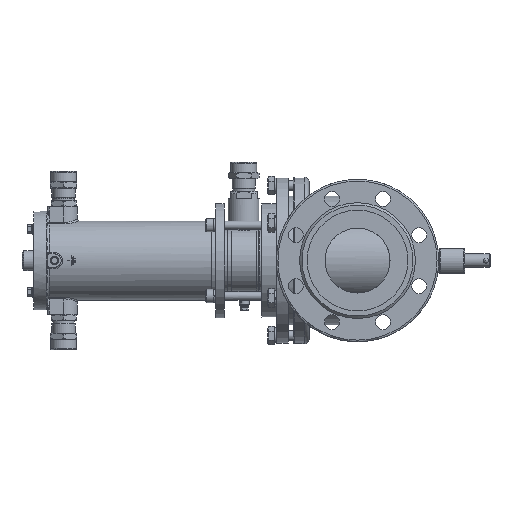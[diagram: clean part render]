
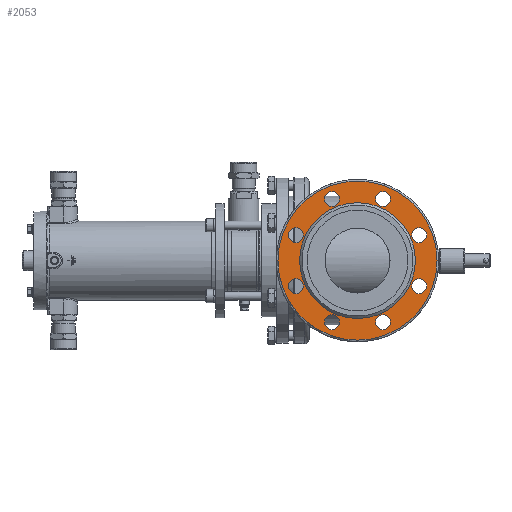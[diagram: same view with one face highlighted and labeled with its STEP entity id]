
A CAD part, left-side view. The second image highlights one B-rep face of the part: STEP entity #2053.
In plain terms, the highlighted planar face has unit normal (-1, 0, 0).
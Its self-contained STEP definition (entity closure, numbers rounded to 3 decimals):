
#2053=ADVANCED_FACE('',(#23290,#23292,#23294,#23296,#23298,#23300,#23302,#23304,
#23306,#23308),#23310,.T.);
#23290=FACE_BOUND('',#23291,.T.);
#23291=EDGE_LOOP('',(#35790));
#23292=FACE_BOUND('',#23293,.T.);
#23293=EDGE_LOOP('',(#35791));
#23294=FACE_BOUND('',#23295,.T.);
#23295=EDGE_LOOP('',(#35792));
#23296=FACE_BOUND('',#23297,.T.);
#23297=EDGE_LOOP('',(#35793));
#23298=FACE_BOUND('',#23299,.T.);
#23299=EDGE_LOOP('',(#35794));
#23300=FACE_BOUND('',#23301,.T.);
#23301=EDGE_LOOP('',(#35795));
#23302=FACE_BOUND('',#23303,.T.);
#23303=EDGE_LOOP('',(#35796));
#23304=FACE_BOUND('',#23305,.T.);
#23305=EDGE_LOOP('',(#35797));
#23306=FACE_BOUND('',#23307,.T.);
#23307=EDGE_LOOP('',(#35798));
#23308=FACE_OUTER_BOUND('',#23309,.T.);
#23309=EDGE_LOOP('',(#35799));
#23310=PLANE('',#23311);
#23311=AXIS2_PLACEMENT_3D('',#23312,#23313,#23314);
#23312=CARTESIAN_POINT('',(-151.,0.,0.));
#23313=DIRECTION('',(-1.,0.,0.));
#23314=DIRECTION('',(0.,1.,0.));
#35790=ORIENTED_EDGE('',*,*,#44468,.T.);
#35791=ORIENTED_EDGE('',*,*,#44466,.T.);
#35792=ORIENTED_EDGE('',*,*,#44464,.T.);
#35793=ORIENTED_EDGE('',*,*,#44462,.T.);
#35794=ORIENTED_EDGE('',*,*,#44460,.T.);
#35795=ORIENTED_EDGE('',*,*,#44458,.T.);
#35796=ORIENTED_EDGE('',*,*,#44456,.T.);
#35797=ORIENTED_EDGE('',*,*,#44454,.T.);
#35798=ORIENTED_EDGE('',*,*,#44495,.F.);
#35799=ORIENTED_EDGE('',*,*,#44496,.T.);
#44454=EDGE_CURVE('',#53426,#53426,#53428,.T.);
#44456=EDGE_CURVE('',#53429,#53429,#53431,.T.);
#44458=EDGE_CURVE('',#53432,#53432,#53434,.T.);
#44460=EDGE_CURVE('',#53435,#53435,#53437,.T.);
#44462=EDGE_CURVE('',#53438,#53438,#53440,.T.);
#44464=EDGE_CURVE('',#53441,#53441,#53443,.T.);
#44466=EDGE_CURVE('',#53444,#53444,#53446,.T.);
#44468=EDGE_CURVE('',#53447,#53447,#53449,.T.);
#44495=EDGE_CURVE('',#53491,#53491,#53492,.T.);
#44496=EDGE_CURVE('',#53493,#53493,#53494,.T.);
#53426=VERTEX_POINT('',#87039);
#53428=CIRCLE('',#87043,9.);
#53429=VERTEX_POINT('',#87047);
#53431=CIRCLE('',#87051,9.);
#53432=VERTEX_POINT('',#87055);
#53434=CIRCLE('',#87059,9.);
#53435=VERTEX_POINT('',#87063);
#53437=CIRCLE('',#87067,9.);
#53438=VERTEX_POINT('',#87071);
#53440=CIRCLE('',#87075,9.);
#53441=VERTEX_POINT('',#87079);
#53443=CIRCLE('',#87083,9.);
#53444=VERTEX_POINT('',#87087);
#53446=CIRCLE('',#87091,9.);
#53447=VERTEX_POINT('',#87095);
#53449=CIRCLE('',#87099,9.);
#53491=VERTEX_POINT('',#87412);
#53492=CIRCLE('',#87413,69.5);
#53493=VERTEX_POINT('',#87417);
#53494=CIRCLE('',#87418,95.5);
#87039=CARTESIAN_POINT('',(-151.,30.615,64.91));
#87043=AXIS2_PLACEMENT_3D('',#87044,#87045,#87046);
#87044=CARTESIAN_POINT('',(-151.,30.615,73.91));
#87045=DIRECTION('',(1.,0.,0.));
#87046=DIRECTION('',(0.,-1.,0.));
#87047=CARTESIAN_POINT('',(-151.,30.615,-82.91));
#87051=AXIS2_PLACEMENT_3D('',#87052,#87053,#87054);
#87052=CARTESIAN_POINT('',(-151.,30.615,-73.91));
#87053=DIRECTION('',(1.,0.,0.));
#87054=DIRECTION('',(0.,-1.,0.));
#87055=CARTESIAN_POINT('',(-151.,73.91,21.615));
#87059=AXIS2_PLACEMENT_3D('',#87060,#87061,#87062);
#87060=CARTESIAN_POINT('',(-151.,73.91,30.615));
#87061=DIRECTION('',(1.,0.,0.));
#87062=DIRECTION('',(0.,-1.,0.));
#87063=CARTESIAN_POINT('',(-151.,-30.615,-82.91));
#87067=AXIS2_PLACEMENT_3D('',#87068,#87069,#87070);
#87068=CARTESIAN_POINT('',(-151.,-30.615,-73.91));
#87069=DIRECTION('',(1.,0.,0.));
#87070=DIRECTION('',(0.,-1.,0.));
#87071=CARTESIAN_POINT('',(-151.,-73.91,21.615));
#87075=AXIS2_PLACEMENT_3D('',#87076,#87077,#87078);
#87076=CARTESIAN_POINT('',(-151.,-73.91,30.615));
#87077=DIRECTION('',(1.,0.,0.));
#87078=DIRECTION('',(0.,-1.,0.));
#87079=CARTESIAN_POINT('',(-151.,-30.615,64.91));
#87083=AXIS2_PLACEMENT_3D('',#87084,#87085,#87086);
#87084=CARTESIAN_POINT('',(-151.,-30.615,73.91));
#87085=DIRECTION('',(1.,0.,0.));
#87086=DIRECTION('',(0.,-1.,0.));
#87087=CARTESIAN_POINT('',(-151.,73.91,-39.615));
#87091=AXIS2_PLACEMENT_3D('',#87092,#87093,#87094);
#87092=CARTESIAN_POINT('',(-151.,73.91,-30.615));
#87093=DIRECTION('',(1.,0.,0.));
#87094=DIRECTION('',(0.,-1.,0.));
#87095=CARTESIAN_POINT('',(-151.,-73.91,-39.615));
#87099=AXIS2_PLACEMENT_3D('',#87100,#87101,#87102);
#87100=CARTESIAN_POINT('',(-151.,-73.91,-30.615));
#87101=DIRECTION('',(1.,0.,0.));
#87102=DIRECTION('',(0.,-1.,0.));
#87412=CARTESIAN_POINT('',(-151.,-69.5,0.));
#87413=AXIS2_PLACEMENT_3D('',#87414,#87415,#87416);
#87414=CARTESIAN_POINT('',(-151.,0.,0.));
#87415=DIRECTION('',(-1.,0.,0.));
#87416=DIRECTION('',(0.,1.,0.));
#87417=CARTESIAN_POINT('',(-151.,-95.5,0.));
#87418=AXIS2_PLACEMENT_3D('',#87419,#87420,#87421);
#87419=CARTESIAN_POINT('',(-151.,0.,0.));
#87420=DIRECTION('',(-1.,0.,0.));
#87421=DIRECTION('',(0.,1.,0.));
